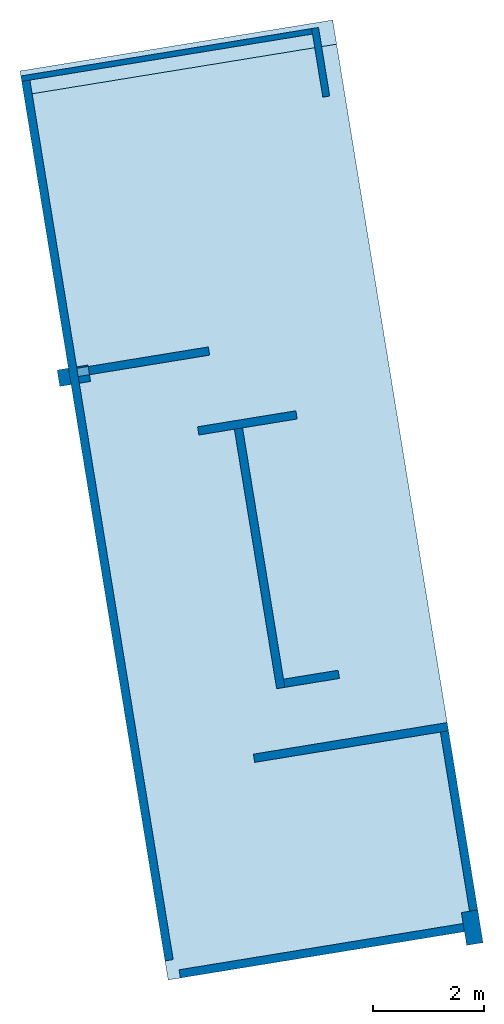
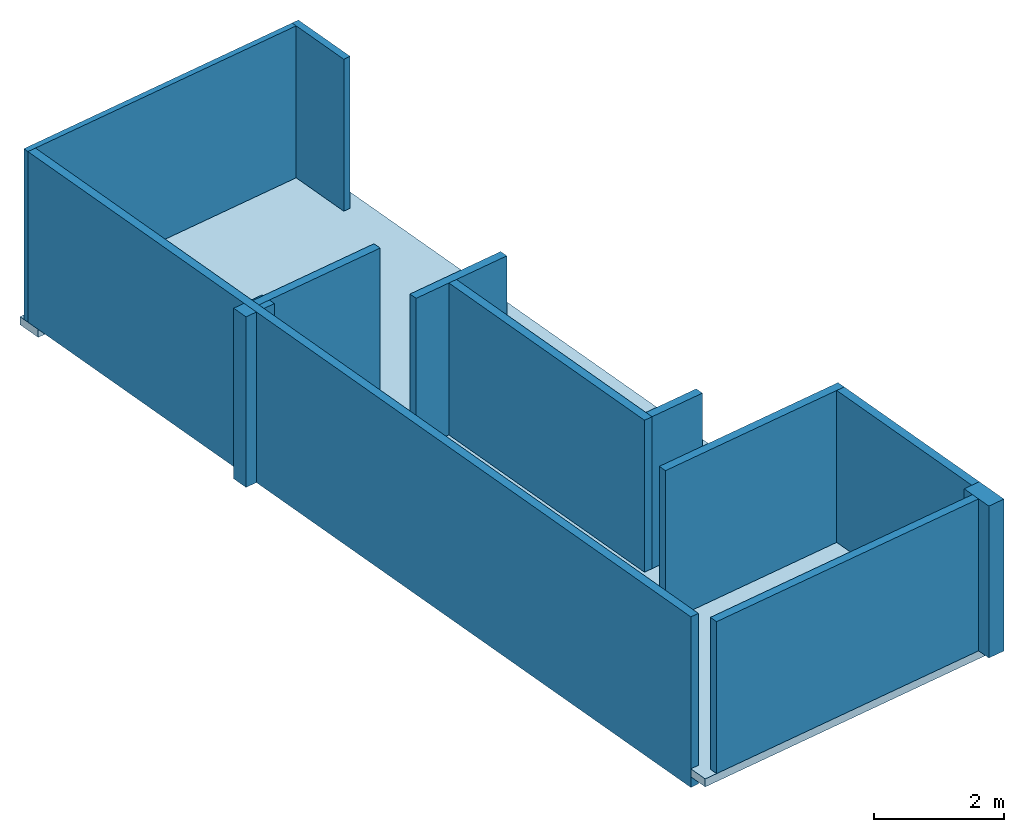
# One storey: 10 walls, 2 columns, 2 slabs.
"""IFC2X3 building model written with IfcOpenShell, lengths in millimetres."""

from ifc_helpers import new_model, entity, si_unit, converted_unit, derived_unit, direction, frame, frame_2d, origin, origin_with_axes, place, context, subcontext, project, spatial, rectangle, extrude, faceted_brep, source, transform, mapped, material, layer, layer_set, layer_usage, type_object, element, save


model = new_model("IFC2X3")

# Units and contexts
model_context = context("Model", 3, precision=0.01, world=origin(), true_north=direction((6.12323399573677e-17, 1.0)))
plan_context = context("Plan", 3, precision=1e-05, world=origin_with_axes())
body_context = subcontext(model_context, "Body", "Model", "MODEL_VIEW")
ifc_project = project(units=[converted_unit("PLANEANGLEUNIT", "DEGREE", entity("IfcPositiveLengthMeasure", 0.0174532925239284), si_unit("PLANEANGLEUNIT", "RADIAN"), dimensions=[0, 0, 0, 0, 0, 0, 0]), si_unit("AREAUNIT", "SQUARE_METRE"), si_unit("LENGTHUNIT", "METRE", prefix="MILLI"), si_unit("MASSUNIT", "GRAM", prefix="KILO"), si_unit("POWERUNIT", "WATT"), si_unit("PRESSUREUNIT", "PASCAL", prefix="KILO"), si_unit("FORCEUNIT", "NEWTON", prefix="KILO"), si_unit("ELECTRICVOLTAGEUNIT", "VOLT"), si_unit("ELECTRICCURRENTUNIT", "AMPERE"), si_unit("THERMODYNAMICTEMPERATUREUNIT", "DEGREE_CELSIUS"), si_unit("TIMEUNIT", "SECOND"), si_unit("VOLUMEUNIT", "CUBIC_METRE"), derived_unit("LINEARVELOCITYUNIT", [(si_unit("LENGTHUNIT", "METRE"), 1), (si_unit("TIMEUNIT", "SECOND"), -1)]), derived_unit("VOLUMETRICFLOWRATEUNIT", [(si_unit("VOLUMEUNIT", "CUBIC_METRE"), 1), (si_unit("TIMEUNIT", "SECOND"), -1)]), derived_unit("THERMALTRANSMITTANCEUNIT", [(si_unit("POWERUNIT", "WATT"), 1), (si_unit("THERMODYNAMICTEMPERATUREUNIT", "KELVIN"), -1), (si_unit("AREAUNIT", "SQUARE_METRE"), -1)]), derived_unit("SOUNDPRESSUREUNIT", [(si_unit("PRESSUREUNIT", "PASCAL"), 1)])], contexts=[model_context, plan_context])

# Site, building, storey
site_placement = place(None, frame((118326.676922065, 1366174.45681126, 48360.0), z_axis=(0.0, 0.0, 1.0), x_axis=(0.160815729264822, -0.986984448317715, 0.0)))
site = spatial("IfcSite", under=ifc_project, at=site_placement, Name="Default", CompositionType="ELEMENT")
building_placement = place(site_placement, origin_with_axes())
building = spatial("IfcBuilding", under=site, at=building_placement, Name="br002", CompositionType="ELEMENT")
storey_placement = place(building_placement, frame((0.0, 0.0, 3850.0), z_axis=(0.0, 0.0, 1.0), x_axis=(1.0, 0.0, 0.0)))
storey = spatial("IfcBuildingStorey", under=building, at=storey_placement, Name="H01", CompositionType="ELEMENT", Elevation=3849.99999999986)

# Columns
ifc_material_1 = material(Name="Metal Deck")
column_type_1 = type_object("IfcColumnType", Name="M_Rectangular Column:563 x 300 mm", PredefinedType="COLUMN", material=ifc_material_1)
shared_shape_1 = source(origin(), body_context, "Body", "SolidModel", [
    extrude(rectangle(XDim=206.499999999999, YDim=300.000000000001, at=frame_2d((5.47117906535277e-13, 0.0), x_axis=(1.0, 0.0))), frame((30449.1710782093, -4451.07367214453, 3850.0), z_axis=(0.0, 0.0, 1.0), x_axis=(0.0, 1.0, 0.0)), (0.0, 0.0, 1.0), 3200.00000000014),
    faceted_brep([(30599.1710782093, -4197.82367214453, 7050.0), (30599.1710782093, -3991.32367214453, 7050.0), (30476.1710782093, -3991.32367214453, 7050.0), (30476.1710782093, -4197.82367214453, 7050.0), (30299.1710782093, -3991.32367214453, 3850.0), (30599.1710782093, -3991.32367214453, 3850.0), (30599.1710782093, -4197.82367214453, 3850.0), (30299.1710782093, -4197.82367214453, 3850.0), (30299.1710782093, -3991.32367214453, 7050.0), (30326.1710782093, -3991.32367214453, 7050.0), (30326.1710782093, -3991.32367214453, 4200.0), (30476.1710782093, -3991.32367214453, 4200.0), (30299.1710782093, -4197.82367214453, 7050.0), (30476.1710782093, -4197.82367214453, 4200.0), (30326.1710782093, -4197.82367214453, 4200.0), (30326.1710782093, -4197.82367214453, 7050.0)], [[[0, 1, 2, 3]], [[4, 5, 6, 7]], [[5, 4, 8, 9, 10, 11, 2, 1]], [[8, 4, 7, 12]], [[5, 1, 0, 6]], [[7, 6, 0, 3, 13, 14, 15, 12]], [[11, 13, 3, 2]], [[14, 10, 9, 15]], [[13, 11, 10, 14]], [[8, 12, 15, 9]]]),
])
column_1_placement = place(storey_placement, frame((0.0, 0.0, -3850.0), z_axis=(0.0, 0.0, 1.0), x_axis=(1.0, 0.0, 0.0)))
element("IfcColumn", 1, at=column_1_placement, inside=storey, type_object=column_type_1, material=ifc_material_1, Name="M_Rectangular Column:563 x 300 mm", ObjectType="M_Rectangular Column:563 x 300 mm", context=body_context, shape_type="MappedRepresentation", body=[
    mapped(shared_shape_1, transform((0.0, 0.0, 0.0), scale=1.0)),
])
column_type_2 = type_object("IfcColumnType", Name="M_Rectangular Column:600 x 300 mm", PredefinedType="COLUMN", material=ifc_material_1)
shared_shape_2 = source(origin(), body_context, "Body", "SweptSolid", [
    extrude(rectangle(XDim=300.0, YDim=600.000000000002, at=frame_2d((1.22213350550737e-12, 22.7272727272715), x_axis=(1.0, 0.0))), frame((41471.8983509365, 1227.17632785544, 4200.0), z_axis=(0.0, 0.0, 1.0), x_axis=(0.0, 1.0, 0.0)), (0.0, 0.0, 1.0), 2850.00000000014),
])
column_2_placement = place(storey_placement, frame((0.0, 0.0, -3850.0), z_axis=(0.0, 0.0, 1.0), x_axis=(1.0, 0.0, 0.0)))
element("IfcColumn", 2, at=column_2_placement, inside=storey, type_object=column_type_2, material=ifc_material_1, Name="M_Rectangular Column:600 x 300 mm", ObjectType="M_Rectangular Column:600 x 300 mm", context=body_context, shape_type="MappedRepresentation", body=[
    mapped(shared_shape_2, transform((0.0, 0.0, 0.0), scale=1.0)),
])

# Slabs
ifc_material_2 = material(Name="Concrete, Cast In Situ")
ifc_layer_1 = layer(ifc_material_2, 150.0)
ifc_layer_set_1 = layer_set([ifc_layer_1], Name="Floor:Betong 150mm")
slab_type = type_object("IfcSlabType", Name="Floor:Betong 150mm", PredefinedType="FLOOR", material=ifc_layer_set_1)
slab_1_placement = place(storey_placement, origin_with_axes())
element("IfcSlab", 3, at=slab_1_placement, inside=storey, type_object=slab_type, Name="Floor:Betong 150mm", ObjectType="Floor:Betong 150mm", PredefinedType="FLOOR", context=body_context, shape_type="Brep", body=[
    faceted_brep([(25299.1710782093, 1377.17632785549, 0.0), (25299.1710782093, 1377.17632785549, -150.0), (25299.1710782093, -4347.82367214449, -150.0), (25299.1710782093, -4347.82367214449, 0.0), (24857.1710782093, -4347.82367214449, -1.13686837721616e-13), (24857.1710782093, 1377.17632785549, -1.13686837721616e-13), (24857.1710782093, 1377.17632785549, -150.0), (24857.1710782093, -4347.82367214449, -150.0)], [[[0, 1, 2, 3]], [[3, 4, 5, 0]], [[1, 6, 7, 2]], [[6, 1, 0, 5]], [[5, 4, 7, 6]], [[4, 3, 2, 7]]], orient=[[False], [False], [False], [False], [False], [False]]),
])
slab_2_placement = place(storey_placement, origin_with_axes())
element("IfcSlab", 4, at=slab_2_placement, inside=storey, type_object=slab_type, Name="Floor:Betong 150mm", ObjectType="Floor:Betong 150mm", PredefinedType="FLOOR", context=body_context, shape_type="Brep", body=[
    faceted_brep([(24949.1710782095, -4347.82367214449, 350.0), (24949.1710782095, -4347.82367214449, 200.0), (24949.1710782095, 1377.1763278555, 200.0), (24949.1710782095, 1377.1763278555, 350.0), (41499.1710782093, 1377.17632785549, 350.0), (41499.1710782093, -4347.82367214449, 350.0), (41499.1710782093, -4347.82367214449, 200.0), (41499.1710782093, 1377.17632785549, 200.0)], [[[0, 1, 2, 3]], [[3, 4, 5, 0]], [[1, 6, 7, 2]], [[5, 4, 7, 6]], [[4, 3, 2, 7]], [[6, 1, 0, 5]]], orient=[[False], [False], [False], [False], [False], [False]]),
])

# Walls
ifc_material_3 = material(Name="Gypsum Wall Board")
ifc_layer_2 = layer(ifc_material_3, 15.0)
ifc_material_4 = material(Name="Structure, Timber Joist/Rafter Layer")
ifc_layer_3 = layer(ifc_material_4, 96.0)
ifc_layer_4 = layer(ifc_material_3, 15.0)
ifc_layer_set_2 = layer_set([ifc_layer_2, ifc_layer_3, ifc_layer_4], Name="Basic Wall:B 09  126mm Halvvegg")
ifc_layer_usage_1 = layer_usage(ifc_layer_set_2, "AXIS2", "NEGATIVE", 63.0)
wall_type_1 = type_object("IfcWallType", Name="Basic Wall:B 09  126mm Halvvegg", PredefinedType="STANDARD", material=ifc_layer_set_2)
wall_1_placement = place(storey_placement, frame((26205.1603324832, 1039.17632785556, 0.0), z_axis=(0.0, 0.0, 1.0), x_axis=(-1.0, 0.0, 0.0)))
element("IfcWallStandardCase", 5, at=wall_1_placement, inside=storey, type_object=wall_type_1, material=ifc_layer_usage_1, Name="Basic Wall:B 09  126mm Halvvegg", ObjectType="Basic Wall:B 09  126mm Halvvegg", context=body_context, shape_type="SweptSolid", body=[
    extrude(rectangle(XDim=1255.98925427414, YDim=126.0, at=frame_2d((627.994627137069, 3.19744231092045e-14), x_axis=(-1.0, 0.0))), origin(), (0.0, 0.0, 1.0), 3199.9999999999),
])
ifc_layer_5 = layer(ifc_material_3, 13.0)
ifc_layer_6 = layer(ifc_material_4, 74.0)
ifc_layer_7 = layer(ifc_material_3, 13.0)
ifc_layer_set_3 = layer_set([ifc_layer_5, ifc_layer_6, ifc_layer_7], Name="Basic Wall:E 01 100 mm Innervegg")
wall_type_2 = type_object("IfcWallType", Name="Basic Wall:E 01 100 mm Innervegg", PredefinedType="STANDARD", material=ifc_layer_set_3)
wall_2_placement = place(storey_placement, frame((24999.1710782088, 976.176327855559, 0.0), z_axis=(0.0, 0.0, 1.0), x_axis=(0.0, -1.0, 0.0)))
element("IfcWall", 6, at=wall_2_placement, inside=storey, type_object=wall_type_2, Name="Basic Wall:E 01 100 mm Innervegg", ObjectType="Basic Wall:E 01 100 mm Innervegg", context=body_context, shape_type="Brep", body=[
    faceted_brep([(5324.00000000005, 50.0000000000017, 0.0), (5324.00000000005, 50.0000000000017, 3199.9999999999), (0.0, 50.0000000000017, 3199.9999999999), (0.0, 50.0000000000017, 0.0), (0.0, -50.0000000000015, 3199.9999999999), (0.0, -50.0000000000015, 0.0), (5324.00000000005, -50.0000000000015, 3199.9999999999), (5324.00000000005, -50.0000000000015, 0.0)], [[[0, 1, 2, 3]], [[3, 2, 4, 5]], [[6, 7, 5, 4]], [[7, 0, 3, 5]], [[1, 6, 4, 2]], [[7, 6, 1, 0]]], orient=[[False], [False], [False], [False], [False], [False]]),
])
ifc_layer_8 = layer(ifc_material_1, 5.0)
ifc_material_5 = material(Name="Polyurethane Foam")
ifc_layer_9 = layer(ifc_material_5, 140.0)
ifc_layer_10 = layer(ifc_material_1, 5.0)
ifc_layer_set_4 = layer_set([ifc_layer_8, ifc_layer_9, ifc_layer_10], Name="Basic Wall:A 03 150 mm Planja Sand.")
ifc_layer_usage_2 = layer_usage(ifc_layer_set_4, "AXIS2", "NEGATIVE", 75.0)
wall_type_3 = type_object("IfcWallType", Name="Basic Wall:A 03 150 mm Planja Sand.", PredefinedType="STANDARD", material=ifc_layer_set_4)
wall_3_placement = place(storey_placement, frame((25049.1710782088, -4272.8236721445, 0.0), z_axis=(0.0, 0.0, 1.0), x_axis=(1.0, 0.0, 0.0)))
element("IfcWallStandardCase", 7, at=wall_3_placement, inside=storey, type_object=wall_type_3, material=ifc_layer_usage_2, Name="Basic Wall:A 03 150 mm Planja Sand.", ObjectType="Basic Wall:A 03 150 mm Planja Sand.", context=body_context, shape_type="SweptSolid", body=[
    extrude(rectangle(XDim=16100.0, YDim=149.999999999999, at=frame_2d((8050.0, -1.13686837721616e-13), x_axis=(-1.0, 0.0))), origin(), (0.0, 0.0, 1.0), 3199.9999999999),
])
ifc_layer_usage_3 = layer_usage(ifc_layer_set_4, "AXIS2", "NEGATIVE", 75.0)
wall_4_placement = place(storey_placement, frame((30401.1710782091, -4197.82367214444, 350.0), z_axis=(0.0, 0.0, 1.0), x_axis=(0.0, 1.0, 0.0)))
element("IfcWallStandardCase", 8, at=wall_4_placement, inside=storey, type_object=wall_type_3, material=ifc_layer_usage_3, Name="Basic Wall:A 03 150 mm Planja Sand.", ObjectType="Basic Wall:A 03 150 mm Planja Sand.", context=body_context, shape_type="SweptSolid", body=[
    extrude(rectangle(XDim=2406.5, YDim=150.000000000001, at=frame_2d((1203.25, 1.70530256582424e-13), x_axis=(-1.0, 0.0))), origin(), (0.0, 0.0, 1.0), 2849.9999999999),
])
ifc_layer_usage_4 = layer_usage(ifc_layer_set_4, "AXIS2", "POSITIVE", -75.0)
wall_5_placement = place(storey_placement, frame((31794.1710782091, -415.823672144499, 350.0), z_axis=(0.0, 0.0, 1.0), x_axis=(0.0, -1.0, 0.0)))
element("IfcWallStandardCase", 9, at=wall_5_placement, inside=storey, type_object=wall_type_3, material=ifc_layer_usage_4, Name="Basic Wall:A 03 150 mm Planja Sand.", ObjectType="Basic Wall:A 03 150 mm Planja Sand.", context=body_context, shape_type="SweptSolid", body=[
    extrude(rectangle(XDim=1800.0, YDim=150.000000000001, at=frame_2d((900.0, 0.0), x_axis=(-1.0, 0.0))), origin(), (0.0, 0.0, 1.0), 2849.9999999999),
])
ifc_layer_usage_5 = layer_usage(ifc_layer_set_4, "AXIS2", "NEGATIVE", 75.0)
wall_6_placement = place(storey_placement, frame((31869.1710782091, -1490.8236721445, 350.0), z_axis=(0.0, 0.0, 1.0), x_axis=(1.0, 0.0, 0.0)))
element("IfcWallStandardCase", 10, at=wall_6_placement, inside=storey, type_object=wall_type_3, material=ifc_layer_usage_5, Name="Basic Wall:A 03 150 mm Planja Sand.", ObjectType="Basic Wall:A 03 150 mm Planja Sand.", context=body_context, shape_type="SweptSolid", body=[
    extrude(rectangle(XDim=4750.0, YDim=150.0, at=frame_2d((2375.0, 3.5527136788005e-14), x_axis=(-1.0, 0.0))), origin(), (0.0, 0.0, 1.0), 2849.9999999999),
])
ifc_layer_usage_6 = layer_usage(ifc_layer_set_4, "AXIS2", "NEGATIVE", 75.0)
wall_7_placement = place(storey_placement, frame((36544.1710782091, -1415.82367214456, 350.0), z_axis=(0.0, 0.0, 1.0), x_axis=(0.0, 1.0, 0.0)))
element("IfcWallStandardCase", 11, at=wall_7_placement, inside=storey, type_object=wall_type_3, material=ifc_layer_usage_6, Name="Basic Wall:A 03 150 mm Planja Sand.", ObjectType="Basic Wall:A 03 150 mm Planja Sand.", context=body_context, shape_type="SweptSolid", body=[
    extrude(rectangle(XDim=1000.0, YDim=150.000000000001, at=frame_2d((500.000000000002, 0.0), x_axis=(-1.0, 0.0))), origin(), (0.0, 0.0, 1.0), 2849.9999999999),
])
ifc_layer_usage_7 = layer_usage(ifc_layer_set_4, "AXIS2", "NEGATIVE", 75.0)
wall_8_placement = place(storey_placement, frame((37794.1710782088, -2170.63838546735, 350.0), z_axis=(0.0, 0.0, 1.0), x_axis=(0.0, 1.0, 0.0)))
element("IfcWallStandardCase", 12, at=wall_8_placement, inside=storey, type_object=wall_type_3, material=ifc_layer_usage_7, Name="Basic Wall:A 03 150 mm Planja Sand.", ObjectType="Basic Wall:A 03 150 mm Planja Sand.", context=body_context, shape_type="SweptSolid", body=[
    extrude(rectangle(XDim=3547.81471332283, YDim=150.000000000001, at=frame_2d((1773.90735666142, 0.0), x_axis=(-1.0, 0.0))), origin(), (0.0, 0.0, 1.0), 2849.9999999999),
])
ifc_layer_usage_8 = layer_usage(ifc_layer_set_4, "AXIS2", "NEGATIVE", 75.0)
wall_9_placement = place(storey_placement, frame((37869.1710782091, 1302.17632785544, 350.0), z_axis=(0.0, 0.0, 1.0), x_axis=(1.0, 0.0, 0.0)))
element("IfcWallStandardCase", 13, at=wall_9_placement, inside=storey, type_object=wall_type_3, material=ifc_layer_usage_8, Name="Basic Wall:A 03 150 mm Planja Sand.", ObjectType="Basic Wall:A 03 150 mm Planja Sand.", context=body_context, shape_type="SweptSolid", body=[
    extrude(rectangle(XDim=3280.0, YDim=150.0, at=frame_2d((1640.0, -5.6843418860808e-14), x_axis=(-1.0, 0.0))), origin(), (0.0, 0.0, 1.0), 2849.9999999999),
])
ifc_layer_11 = layer(ifc_material_3, 13.0)
ifc_layer_12 = layer(ifc_material_3, 13.0)
ifc_material_6 = material(Name="Rock Wool")
ifc_layer_13 = layer(ifc_material_6, 49.0)
ifc_material_7 = material(Name="Rock Wool(1)")
ifc_layer_14 = layer(ifc_material_7, 49.0)
ifc_layer_15 = layer(ifc_material_3, 13.0)
ifc_layer_16 = layer(ifc_material_3, 13.0)
ifc_layer_set_5 = layer_set([ifc_layer_11, ifc_layer_12, ifc_layer_13, ifc_layer_14, ifc_layer_15, ifc_layer_16], Name="Basic Wall:E 01 150 mm Innervegg")
ifc_layer_usage_9 = layer_usage(ifc_layer_set_5, "AXIS2", "NEGATIVE", 75.0)
wall_type_4 = type_object("IfcWallType", Name="Basic Wall:E 01 150 mm Innervegg", PredefinedType="STANDARD", material=ifc_layer_set_5)
wall_10_placement = place(storey_placement, frame((41424.1710782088, 1077.1763278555, 350.0), z_axis=(0.0, 0.0, 1.0), x_axis=(0.0, -1.0, 0.0)))
element("IfcWallStandardCase", 14, at=wall_10_placement, inside=storey, type_object=wall_type_4, material=ifc_layer_usage_9, Name="Basic Wall:E 01 150 mm Innervegg", ObjectType="Basic Wall:E 01 150 mm Innervegg", context=body_context, shape_type="SweptSolid", body=[
    extrude(rectangle(XDim=5200.00000000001, YDim=150.000000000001, at=frame_2d((2600.0, 0.0), x_axis=(-1.0, 0.0))), origin(), (0.0, 0.0, 1.0), 2849.9999999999),
])

save(model, "model.ifc")
